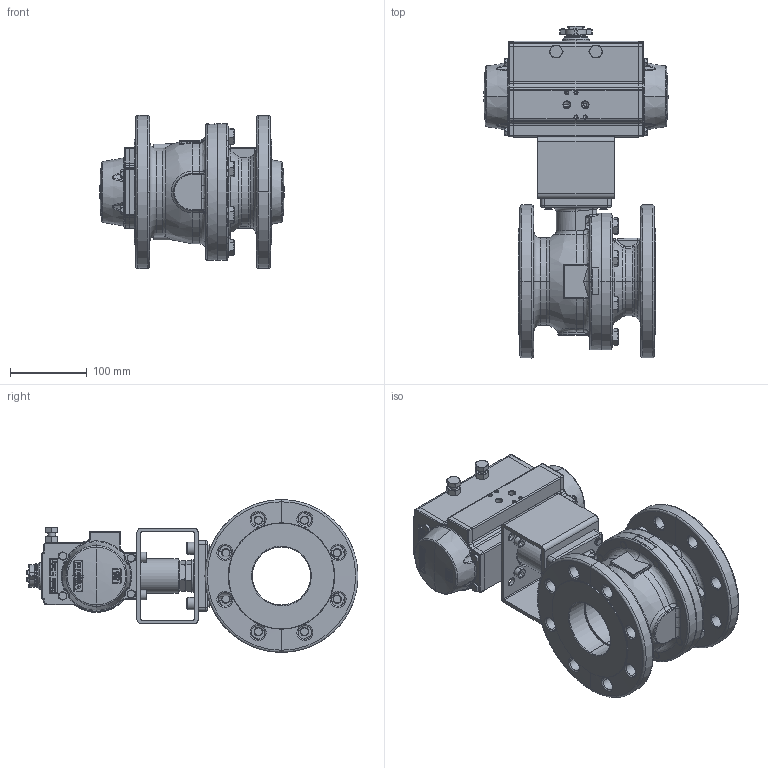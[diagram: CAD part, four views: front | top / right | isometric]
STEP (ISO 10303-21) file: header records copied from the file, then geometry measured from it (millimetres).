
FILE_DESCRIPTION (( 'STEP AP214' ), '1' );
FILE_NAME ('8P01170014.STEP', '2017-05-26T11:40:01', ( 'Bernardelli' ), ( 'Hewlett-Packard Company' ), 'SwSTEP 2.0', 'SolidWorks 2015', '' );
FILE_SCHEMA (( 'AUTOMOTIVE_DESIGN' ));
Length unit declared in the file: millimetre
Products named in the file (1): 8P01170014
Bounding box: 240.69 x 433.8 x 199.99 mm (x, y, z)
Volume: 5069559.4 mm3; surface area: 488342.5 mm2
Topology: 1 solids, 1 shells, 2537 faces, 6594 edges, 4117 vertices
Faces by surface type: plane 825, bspline 754, cone 475, cylinder 453, torus 24, sphere 6
Entity records: 175043 total; most frequent: CARTESIAN_POINT 105497, ORIENTED_EDGE 12992, DIRECTION 7330, EDGE_CURVE 6496, VERTEX_POINT 4097, B_SPLINE_CURVE_WITH_KNOTS 3261, EDGE_LOOP 2731, AXIS2_PLACEMENT_3D 2610
